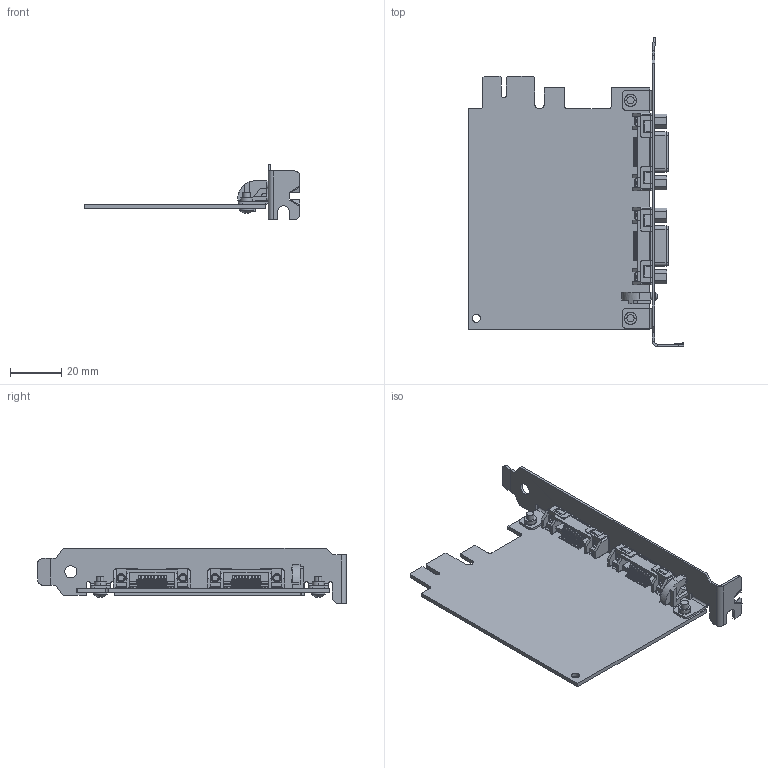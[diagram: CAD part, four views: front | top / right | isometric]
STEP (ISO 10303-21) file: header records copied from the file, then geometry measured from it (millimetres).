
FILE_DESCRIPTION((''),'2;1');
FILE_NAME('CU_PCIE-8362','2010-09-22T',('stgill'),(''),'PRO/ENGINEER BY PARAMETRIC TECHNOLOGY CORPORATION, 2006510','PRO/ENGINEER BY PARAMETRIC TECHNOLOGY CORPORATION, 2006510','');
FILE_SCHEMA(('CONFIG_CONTROL_DESIGN'));
Products named in the file (1): CU_PCIE-8362
Bounding box: 84.53 x 120.91 x 21.59 mm (x, y, z)
Volume: 15627.5 mm3; surface area: 23693.7 mm2
Topology: 1 solids, 4 shells, 3914 faces, 10690 edges, 6800 vertices
Faces by surface type: plane 2390, cylinder 1128, bspline 160, extrusion 144, torus 52, cone 32, sphere 8
Entity records: 135039 total; most frequent: CARTESIAN_POINT 37952, ORIENTED_EDGE 21228, DIRECTION 18404, EDGE_CURVE 10614, VECTOR 7874, LINE 7730, VERTEX_POINT 6838, AXIS2_PLACEMENT_3D 5265
